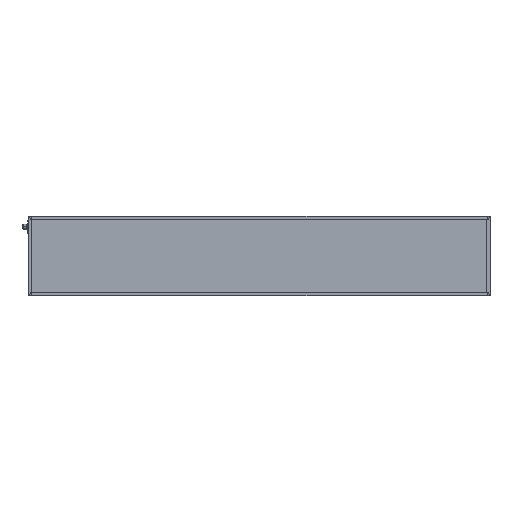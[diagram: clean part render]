
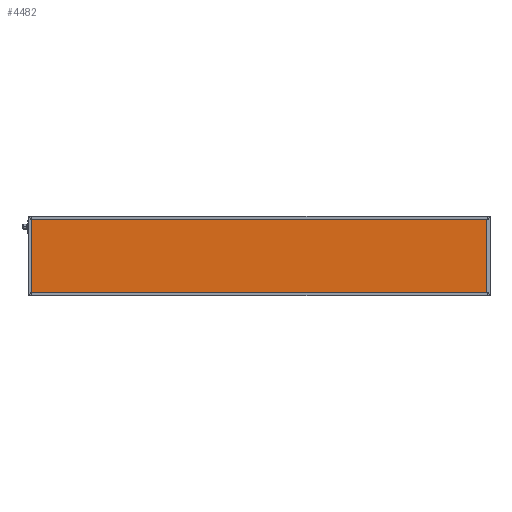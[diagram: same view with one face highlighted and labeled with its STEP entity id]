
A CAD part, top view. The second image highlights one B-rep face of the part: STEP entity #4482.
In plain terms, the highlighted planar face has unit normal (0, 0, 1).
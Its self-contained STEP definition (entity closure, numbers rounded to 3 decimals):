
#337 = CARTESIAN_POINT ( 'NONE',  ( 1196., 4., 41.85 ) ) ;
#469 = DIRECTION ( 'NONE',  ( 0., 1., 0. ) ) ;
#644 = CARTESIAN_POINT ( 'NONE',  ( 0., 0., 41.85 ) ) ;
#772 = VERTEX_POINT ( 'NONE', #11015 ) ;
#823 = CARTESIAN_POINT ( 'NONE',  ( 0., 196., 41.85 ) ) ;
#1126 = VECTOR ( 'NONE', #5499, 1000. ) ;
#1380 = VECTOR ( 'NONE', #10270, 1000. ) ;
#1422 = LINE ( 'NONE', #14744, #7825 ) ;
#1593 = VERTEX_POINT ( 'NONE', #337 ) ;
#2097 = VERTEX_POINT ( 'NONE', #16063 ) ;
#2948 = EDGE_LOOP ( 'NONE', ( #17234, #5858, #10331, #11377 ) ) ;
#3275 = EDGE_CURVE ( 'NONE', #5852, #2097, #4187, .T. ) ;
#4187 = LINE ( 'NONE', #14728, #1126 ) ;
#4482 = ADVANCED_FACE ( 'NONE', ( #6293 ), #10046, .F. ) ;
#5051 = CARTESIAN_POINT ( 'NONE',  ( 4., 196., 41.85 ) ) ;
#5499 = DIRECTION ( 'NONE',  ( 0., -1., 0. ) ) ;
#5852 = VERTEX_POINT ( 'NONE', #5051 ) ;
#5858 = ORIENTED_EDGE ( 'NONE', *, *, #12383, .T. ) ;
#6293 = FACE_OUTER_BOUND ( 'NONE', #2948, .T. ) ;
#6967 = CARTESIAN_POINT ( 'NONE',  ( 0., 4., 41.85 ) ) ;
#7536 = DIRECTION ( 'NONE',  ( -1., 0., 0. ) ) ;
#7825 = VECTOR ( 'NONE', #469, 1000. ) ;
#10046 = PLANE ( 'NONE',  #13125 ) ;
#10270 = DIRECTION ( 'NONE',  ( 1., 0., 0. ) ) ;
#10331 = ORIENTED_EDGE ( 'NONE', *, *, #3275, .T. ) ;
#10606 = VECTOR ( 'NONE', #7536, 1000. ) ;
#11015 = CARTESIAN_POINT ( 'NONE',  ( 1196., 196., 41.85 ) ) ;
#11226 = EDGE_CURVE ( 'NONE', #2097, #1593, #14977, .T. ) ;
#11377 = ORIENTED_EDGE ( 'NONE', *, *, #11226, .T. ) ;
#12383 = EDGE_CURVE ( 'NONE', #772, #5852, #12758, .T. ) ;
#12758 = LINE ( 'NONE', #823, #10606 ) ;
#13125 = AXIS2_PLACEMENT_3D ( 'NONE', #644, #16919, #15606 ) ;
#13134 = EDGE_CURVE ( 'NONE', #1593, #772, #1422, .T. ) ;
#14728 = CARTESIAN_POINT ( 'NONE',  ( 4., 0., 41.85 ) ) ;
#14744 = CARTESIAN_POINT ( 'NONE',  ( 1196., 0., 41.85 ) ) ;
#14977 = LINE ( 'NONE', #6967, #1380 ) ;
#15606 = DIRECTION ( 'NONE',  ( -1., 0., 0. ) ) ;
#16063 = CARTESIAN_POINT ( 'NONE',  ( 4., 4., 41.85 ) ) ;
#16919 = DIRECTION ( 'NONE',  ( 0., 0., -1. ) ) ;
#17234 = ORIENTED_EDGE ( 'NONE', *, *, #13134, .T. ) ;
